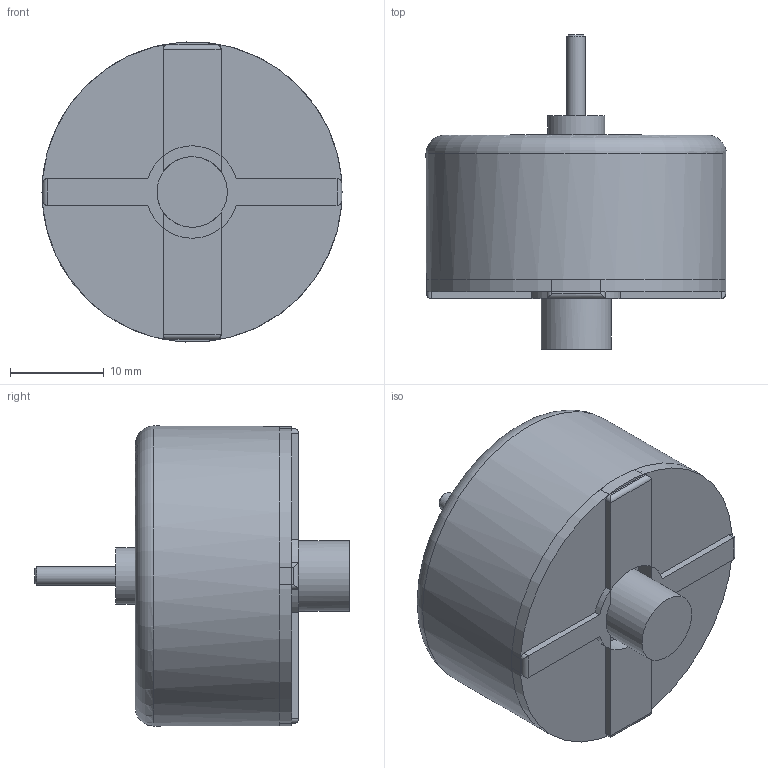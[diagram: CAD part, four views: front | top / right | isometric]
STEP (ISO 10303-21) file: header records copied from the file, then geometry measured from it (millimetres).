
FILE_DESCRIPTION(/* description */ (''),/* implementation_level */ '2;1');
FILE_NAME(/* name */ 'C:/Users/Hardiq/Desktop/HITTING MECHANISM MOTOR v2.step',/* time_stamp */ '2017-02-27T21:23:00+06:00',/* author */ (''),/* organization */ (''),/* preprocessor_version */ 'ST-DEVELOPER v16.5',/* originating_system */ 'Autodesk Translation Framework v5.2.0.2920',/* authorisation */ '');
FILE_SCHEMA (('AUTOMOTIVE_DESIGN { 1 0 10303 214 3 1 1 }'));
Length unit declared in the file: millimetre
Products named in the file (1): HITTING MECHANISM MOTOR v2
Bounding box: 31.97 x 33.5 x 31.97 mm (x, y, z)
Volume: 13823.7 mm3; surface area: 4961.6 mm2
Topology: 2 solids, 2 shells, 82 faces, 193 edges, 120 vertices
Faces by surface type: plane 43, cylinder 37, torus 1, cone 1
Full cylindrical faces by diameter (mm): 1.471 x2, 1.98 x1, 6.07 x1, 7.5 x1, 32 x2
Entity records: 2373 total; most frequent: DIRECTION 420, CARTESIAN_POINT 385, ORIENTED_EDGE 374, EDGE_CURVE 183, AXIS2_PLACEMENT_3D 154, VERTEX_POINT 119, LINE 112, VECTOR 112
